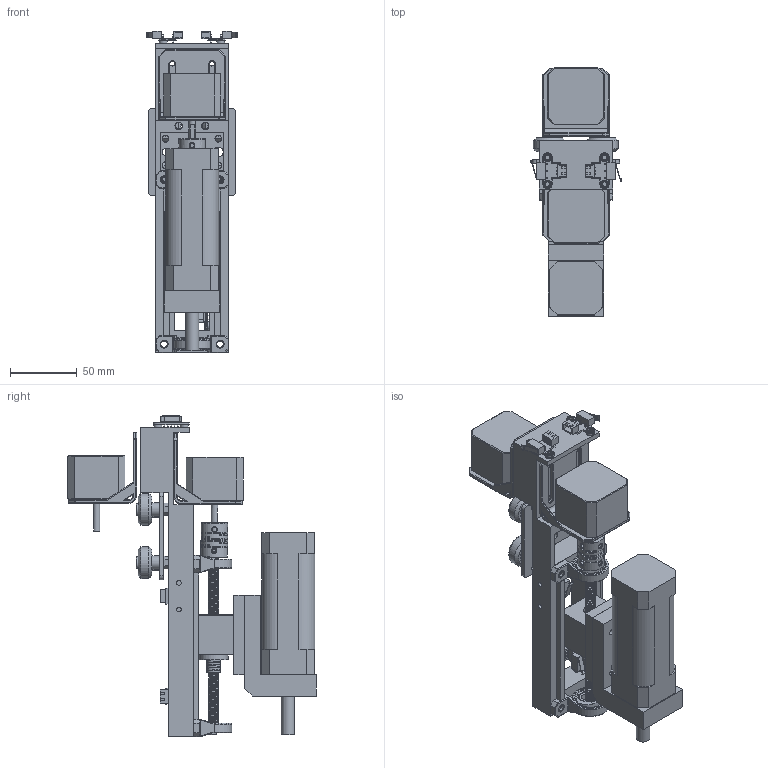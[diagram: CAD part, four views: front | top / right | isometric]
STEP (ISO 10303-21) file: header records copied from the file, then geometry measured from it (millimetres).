
FILE_DESCRIPTION(/* description */ ('STEP AP242 Edition 2','CAx-IF Rec.Pracs.---Representation and Presentation of Product Manufacturing Information (PMI)---4.0---2014-10-13','CAx-IF Rec.Pracs.---3D Tessellated Geometry---0.4---2014-09-14','2;1','CAx-IF Rec.Pracs.---User Defined Attributes---1.5---2016-08-15'),/* implementation_level */ '2;1');
FILE_NAME(/* name */ 'X and Z-Axis Assembly',/* time_stamp */ '2025-11-29T19:53:34Z',/* author */ (''),/* organization */ (''),/* preprocessor_version */ 'ST-DEVELOPER v20',/* originating_system */ 'ONSHAPE BY PTC INC, 1.207',/* authorisation */ ' ');
FILE_SCHEMA (('AP242_MANAGED_MODEL_BASED_3D_ENGINEERING_MIM_LF { 1 0 10303 442 3 1 4 }'));
Length unit declared in the file: metre
Products named in the file (30): X and Z-Axis Assembly; Limit Switch; Full X-Axis and Spindle <1>; stepper_bracket; Stepper Motor <1>; shaft; Z-Axis Assembly <1>; Power Screw Bearing Part - KP08 SUPPORT BEARING-Edited; Part 1; T8_NUT_HOUSING; LeadScrew 8mm x 2mmPitch; LeadScrew Nut 8mm x 2mmPitch; Gantry <1>; Ball Bearing 5 x 16 x 5 v1; Eccentric Spacer 6mm v1; Xtreme Solid V Wheel v1; Nylon Insert Lock Nut M5 v1; Low Profile Screw M5 v1; Precision Shim 8 x 5 x 1 v1; Aluminum Spacer 6mm v1; V-Slot Gantry Plate 20mm v1; Spindle Assembly <1>
Assembly tree (59 placements, depth 5):
  X and Z-Axis Assembly
    Limit Switch  x2
    Full X-Axis and Spindle <1>
      stepper_bracket
      Stepper Motor <1>
        shaft
      Limit Switch  x2
      Z-Axis Assembly <1>
        Power Screw Bearing Part - KP08 SUPPORT BEARING-Edited  x2
        Part 1
        Stepper Motor <1>
          shaft
        stepper_bracket
        Power Screw Bearing Part - KP08 SUPPORT BEARING-Edited  x2
        Power Screw Bearing Part - KP08 SUPPORT BEARING-Edited  x2
        Power Screw Bearing Part - KP08 SUPPORT BEARING-Edited  x2
        T8_NUT_HOUSING
        Part 1
        LeadScrew 8mm x 2mmPitch
        LeadScrew Nut 8mm x 2mmPitch
      Gantry <1>
        Ball Bearing 5 x 16 x 5 v1  x8
        Eccentric Spacer 6mm v1  x2
        Xtreme Solid V Wheel v1  x4
        Nylon Insert Lock Nut M5 v1  x4
        Low Profile Screw M5 v1  x4
        Precision Shim 8 x 5 x 1 v1  x4
        Aluminum Spacer 6mm v1  x2
        V-Slot Gantry Plate 20mm v1
      Spindle Assembly <1>
        Part 1
        Part 1
      Part 1
Bounding box: 68.53 x 186.76 x 242.08 mm (x, y, z)
Volume: 622070.1 mm3; surface area: 206629.2 mm2
Topology: 53 solids, 58 shells, 2164 faces, 5443 edges, 3524 vertices
Faces by surface type: plane 1203, cylinder 566, cone 133, torus 110, bspline 88, sphere 64
Full cylindrical faces by diameter (mm): 1.5 x4, 1.8 x2, 2.075 x8, 2.5 x4, 3.3 x12, 3.5 x28, 4 x20, 4.2 x4, 4.25 x4, 4.9 x8, 5 x33, 5.04 x1, 5.1 x14, 5.293 x1, 5.3 x4, 5.433 x1, 5.5 x4, 5.502 x1, 6 x24, 6.5 x4, 7.11 x2, 7.2 x3, 7.5 x4, 8 x6, 8.05 x1, 8.6 x16, 9.4 x2, 10 x3, 10.2 x2, 10.5 x1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
Entity records: 42520 total; most frequent: CARTESIAN_POINT 16926, ORIENTED_EDGE 4882, DIRECTION 4764, EDGE_CURVE 2441, AXIS2_PLACEMENT_3D 1810, VERTEX_POINT 1780, EDGE_LOOP 1527, FACE_BOUND 1527
